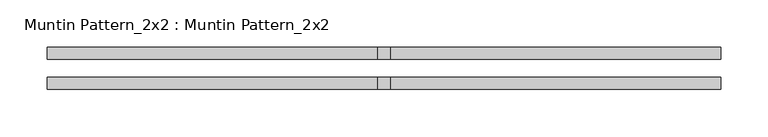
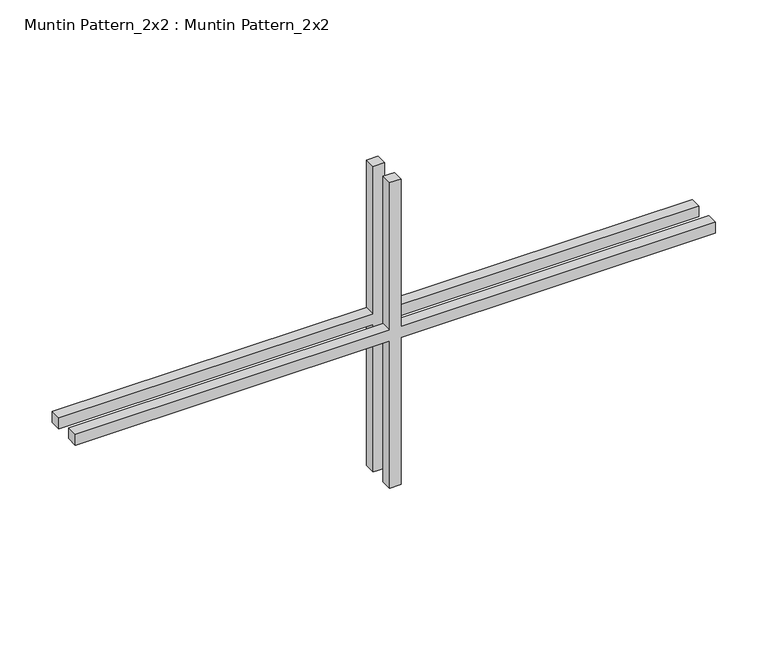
"""IFC4 building model written with IfcOpenShell, lengths in millimetres: proxy geometry, Muntin Pattern_2x2 : Muntin Pattern_2x2."""

from ifc_helpers import new_model, si_unit, frame, origin, place, context, project, spatial, polyline, outline, extrude, source, transform, mapped, element, save


def muntin_pattern_2x2_muntin_pattern_2x2_2e999a57(model_context):
    return source(origin(), model_context, "Body", "SweptSolid", [
        extrude(outline(polyline([(185.7375, -6.35), (185.7375, -355.6), (173.0375, -355.6), (173.0375, -6.35), (0.0, -6.35), (0.0, 6.35), (173.0375, 6.35), (173.0375, 355.6), (185.7375, 355.6), (185.7375, 6.35), (358.775, 6.35), (358.775, -6.35), (185.7375, -6.35)])), frame((0.0, 9.525, 0.0), z_axis=(0.0, 1.0, 0.0), x_axis=(0.0, 0.0, 1.0)), (0.0, 0.0, 1.0), 12.7),
        extrude(outline(polyline([(185.7375, -6.35), (185.7375, -355.6), (173.0375, -355.6), (173.0375, -6.35), (0.0, -6.35), (0.0, 6.35), (173.0375, 6.35), (173.0375, 355.6), (185.7375, 355.6), (185.7375, 6.35), (358.775, 6.35), (358.775, -6.35), (185.7375, -6.35)])), frame((0.0, -22.225, 0.0), z_axis=(0.0, 1.0, 0.0), x_axis=(0.0, 0.0, 1.0)), (0.0, 0.0, 1.0), 12.7),
    ])


if __name__ == "__main__":
    model = new_model("IFC4")
    model_context = context("Model", 3, world=origin())
    ifc_project = project(units=[si_unit("LENGTHUNIT", "METRE", prefix="MILLI")], contexts=[model_context])
    site = spatial("IfcSite", under=ifc_project)
    building = spatial("IfcBuilding", under=site)
    placement = place(None, origin())
    muntin_pattern_2x2_muntin_pattern_2x2_shape = muntin_pattern_2x2_muntin_pattern_2x2_2e999a57(model_context)
    element("IfcBuildingElementProxy", 1, Name="Muntin Pattern_2x2 : Muntin Pattern_2x2", ObjectType="Muntin Pattern_2x2 : Muntin Pattern_2x2", at=placement, inside=building, context=model_context, shape_type="MappedRepresentation", body=[
        mapped(muntin_pattern_2x2_muntin_pattern_2x2_shape, transform((0.0, 0.0, 0.0), x_axis=(1.0, 0.0, 0.0), y_axis=(0.0, 1.0, 0.0), z_axis=(0.0, 0.0, 1.0))),
    ])
    save(model, "model.ifc")
